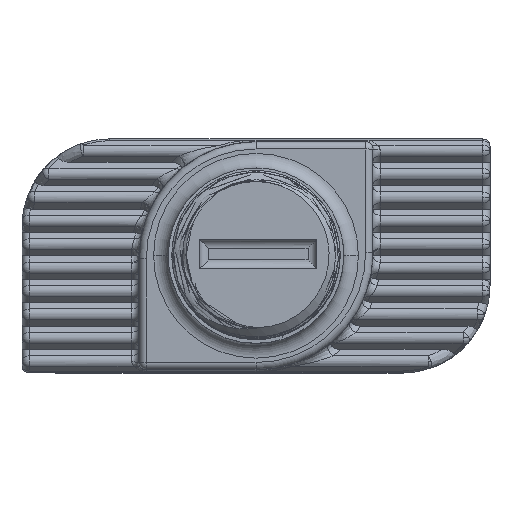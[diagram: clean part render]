
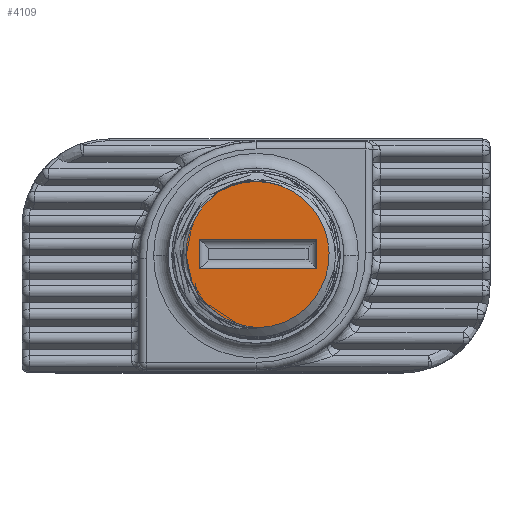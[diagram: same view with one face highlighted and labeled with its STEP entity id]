
A CAD part, top view. The second image highlights one B-rep face of the part: STEP entity #4109.
In plain terms, the highlighted planar face has unit normal (0, 0, 1).
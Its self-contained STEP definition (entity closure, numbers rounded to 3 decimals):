
#154 = CARTESIAN_POINT ( 'NONE',  ( 3.078, 1.164, 29.5 ) ) ;
#468 = EDGE_CURVE ( 'NONE', #7431, #10837, #516, .T. ) ;
#516 = B_SPLINE_CURVE_WITH_KNOTS ( 'NONE', 3,
 ( #5794, #4593, #11814, #6996, #15404, #8225, #1043, #9436, #2229, #10654, #3437, #11865, #4648, #13062, #5845, #14263, #7047, #15452, #8270, #1096, #9484, #2274, #10704, #3489, #11909, #4698 ),
 .UNSPECIFIED., .F., .F.,
 ( 4, 2, 2, 2, 2, 2, 2, 2, 2, 2, 2, 2, 4 ),
 ( 0., 0.001, 0.001, 0.002, 0.002, 0.003, 0.003, 0.003, 0.004, 0.004, 0.005, 0.006, 0.007 ),
 .UNSPECIFIED. ) ;
#1043 = CARTESIAN_POINT ( 'NONE',  ( -1.19, 1.667, 29.5 ) ) ;
#1096 = CARTESIAN_POINT ( 'NONE',  ( -0.779, -0.978, 29.5 ) ) ;
#1490 = CARTESIAN_POINT ( 'NONE',  ( 3.078, 1.164, 29.5 ) ) ;
#1525 = DIRECTION ( 'NONE',  ( 0., 0., 1. ) ) ;
#2190 = FACE_BOUND ( 'NONE', #15246, .T. ) ;
#2229 = CARTESIAN_POINT ( 'NONE',  ( -1.317, 1.288, 29.5 ) ) ;
#2274 = CARTESIAN_POINT ( 'NONE',  ( -0.157, -1.491, 29.5 ) ) ;
#2348 = DIRECTION ( 'NONE',  ( -1., 0., 0. ) ) ;
#2388 = CARTESIAN_POINT ( 'NONE',  ( -0.922, 0.164, 29.5 ) ) ;
#2952 = ORIENTED_EDGE ( 'NONE', *, *, #14091, .F. ) ;
#3138 = EDGE_CURVE ( 'NONE', #10837, #7431, #4426, .T. ) ;
#3252 = CARTESIAN_POINT ( 'NONE',  ( 1., 0.647, 29.5 ) ) ;
#3414 = EDGE_CURVE ( 'NONE', #12922, #6737, #5949, .T. ) ;
#3437 = CARTESIAN_POINT ( 'NONE',  ( -1.383, 0.89, 29.5 ) ) ;
#3489 = CARTESIAN_POINT ( 'NONE',  ( 0.591, -1.791, 29.5 ) ) ;
#3500 = VECTOR ( 'NONE', #8530, 1000. ) ;
#4109 = ADVANCED_FACE ( 'NONE', ( #2190, #4979 ), #11823, .T. ) ;
#4211 = VECTOR ( 'NONE', #10262, 1000. ) ;
#4426 = CIRCLE ( 'NONE', #11757, 2.5 ) ;
#4461 = DIRECTION ( 'NONE',  ( 1., 0., 0. ) ) ;
#4593 = CARTESIAN_POINT ( 'NONE',  ( -0.487, 2.641, 29.5 ) ) ;
#4598 = LINE ( 'NONE', #13870, #4211 ) ;
#4648 = CARTESIAN_POINT ( 'NONE',  ( -1.385, 0.489, 29.5 ) ) ;
#4698 = CARTESIAN_POINT ( 'NONE',  ( 1.122, -1.85, 29.5 ) ) ;
#4792 = LINE ( 'NONE', #10420, #10817 ) ;
#4979 = FACE_OUTER_BOUND ( 'NONE', #9998, .T. ) ;
#5794 = CARTESIAN_POINT ( 'NONE',  ( -0.27, 2.801, 29.5 ) ) ;
#5845 = CARTESIAN_POINT ( 'NONE',  ( -1.322, 0.091, 29.5 ) ) ;
#5949 = LINE ( 'NONE', #13185, #15152 ) ;
#5998 = AXIS2_PLACEMENT_3D ( 'NONE', #15316, #1525, #9937 ) ;
#6090 = ORIENTED_EDGE ( 'NONE', *, *, #6332, .F. ) ;
#6332 = EDGE_CURVE ( 'NONE', #6737, #15056, #4598, .T. ) ;
#6540 = CARTESIAN_POINT ( 'NONE',  ( -0.27, 2.801, 29.5 ) ) ;
#6737 = VERTEX_POINT ( 'NONE', #7937 ) ;
#6996 = CARTESIAN_POINT ( 'NONE',  ( -0.93, 2.137, 29.5 ) ) ;
#7047 = CARTESIAN_POINT ( 'NONE',  ( -1.196, -0.291, 29.5 ) ) ;
#7431 = VERTEX_POINT ( 'NONE', #6540 ) ;
#7937 = CARTESIAN_POINT ( 'NONE',  ( -0.922, 1.164, 29.5 ) ) ;
#8010 = ORIENTED_EDGE ( 'NONE', *, *, #3414, .F. ) ;
#8225 = CARTESIAN_POINT ( 'NONE',  ( -1.134, 1.791, 29.5 ) ) ;
#8270 = CARTESIAN_POINT ( 'NONE',  ( -1.011, -0.648, 29.5 ) ) ;
#8485 = ORIENTED_EDGE ( 'NONE', *, *, #12746, .F. ) ;
#8530 = DIRECTION ( 'NONE',  ( 0., 1., 0. ) ) ;
#8695 = ORIENTED_EDGE ( 'NONE', *, *, #468, .T. ) ;
#9260 = DIRECTION ( 'NONE',  ( 1., 0., 0. ) ) ;
#9436 = CARTESIAN_POINT ( 'NONE',  ( -1.281, 1.416, 29.5 ) ) ;
#9484 = CARTESIAN_POINT ( 'NONE',  ( -0.59, -1.169, 29.5 ) ) ;
#9937 = DIRECTION ( 'NONE',  ( 1., 0., 0. ) ) ;
#9998 = EDGE_LOOP ( 'NONE', ( #14947, #8695 ) ) ;
#10017 = VERTEX_POINT ( 'NONE', #14015 ) ;
#10262 = DIRECTION ( 'NONE',  ( 0., -1., 0. ) ) ;
#10420 = CARTESIAN_POINT ( 'NONE',  ( -0.922, 0.164, 29.5 ) ) ;
#10654 = CARTESIAN_POINT ( 'NONE',  ( -1.368, 1.025, 29.5 ) ) ;
#10704 = CARTESIAN_POINT ( 'NONE',  ( 0.08, -1.615, 29.5 ) ) ;
#10817 = VECTOR ( 'NONE', #9260, 1000. ) ;
#10837 = VERTEX_POINT ( 'NONE', #15266 ) ;
#11673 = DIRECTION ( 'NONE',  ( 0., 0., 1. ) ) ;
#11757 = AXIS2_PLACEMENT_3D ( 'NONE', #3252, #11673, #4461 ) ;
#11814 = CARTESIAN_POINT ( 'NONE',  ( -0.685, 2.453, 29.5 ) ) ;
#11823 = PLANE ( 'NONE',  #5998 ) ;
#11865 = CARTESIAN_POINT ( 'NONE',  ( -1.391, 0.622, 29.5 ) ) ;
#11909 = CARTESIAN_POINT ( 'NONE',  ( 0.854, -1.837, 29.5 ) ) ;
#12746 = EDGE_CURVE ( 'NONE', #10017, #12922, #15516, .T. ) ;
#12922 = VERTEX_POINT ( 'NONE', #1490 ) ;
#13062 = CARTESIAN_POINT ( 'NONE',  ( -1.351, 0.224, 29.5 ) ) ;
#13185 = CARTESIAN_POINT ( 'NONE',  ( -0.922, 1.164, 29.5 ) ) ;
#13870 = CARTESIAN_POINT ( 'NONE',  ( -0.922, 1.164, 29.5 ) ) ;
#14015 = CARTESIAN_POINT ( 'NONE',  ( 3.078, 0.164, 29.5 ) ) ;
#14091 = EDGE_CURVE ( 'NONE', #15056, #10017, #4792, .T. ) ;
#14263 = CARTESIAN_POINT ( 'NONE',  ( -1.245, -0.166, 29.5 ) ) ;
#14947 = ORIENTED_EDGE ( 'NONE', *, *, #3138, .T. ) ;
#15056 = VERTEX_POINT ( 'NONE', #2388 ) ;
#15152 = VECTOR ( 'NONE', #2348, 1000. ) ;
#15246 = EDGE_LOOP ( 'NONE', ( #6090, #8010, #8485, #2952 ) ) ;
#15266 = CARTESIAN_POINT ( 'NONE',  ( 1.122, -1.85, 29.5 ) ) ;
#15316 = CARTESIAN_POINT ( 'NONE',  ( 1., 0.647, 29.5 ) ) ;
#15404 = CARTESIAN_POINT ( 'NONE',  ( -1.004, 2.026, 29.5 ) ) ;
#15452 = CARTESIAN_POINT ( 'NONE',  ( -1.08, -0.531, 29.5 ) ) ;
#15516 = LINE ( 'NONE', #154, #3500 ) ;
